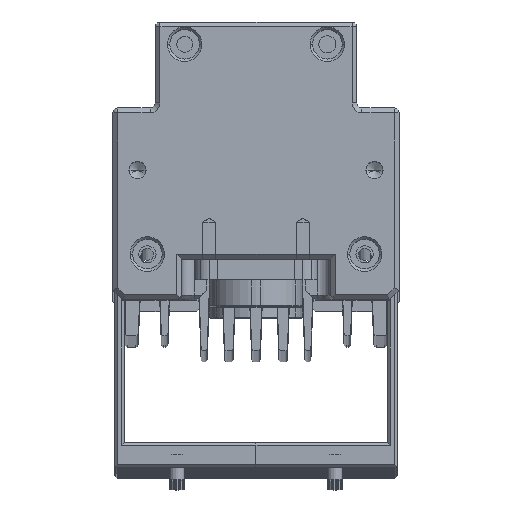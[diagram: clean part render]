
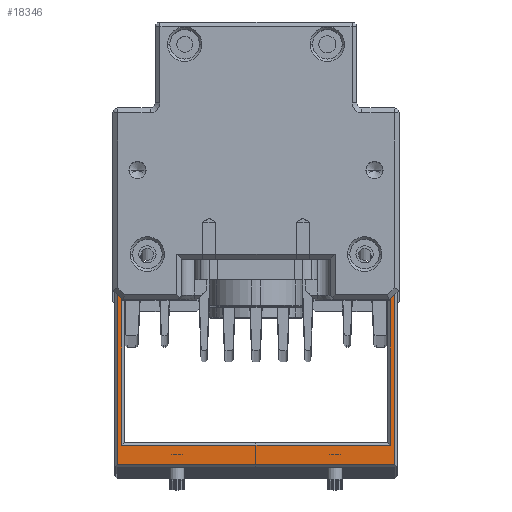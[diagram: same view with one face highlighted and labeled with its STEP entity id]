
A CAD part, top view. The second image highlights one B-rep face of the part: STEP entity #18346.
In plain terms, the highlighted planar face has unit normal (0, 0, 1).
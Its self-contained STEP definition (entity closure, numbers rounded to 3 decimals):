
#17271=DIRECTION('',(-1.,0.,0.));
#17272=VECTOR('',#17271,5.15);
#17273=CARTESIAN_POINT('',(28.15,-20.6,22.));
#17274=LINE('',#17273,#17272);
#17275=DIRECTION('',(0.,1.,0.));
#17276=VECTOR('',#17275,40.5);
#17277=CARTESIAN_POINT('',(28.15,-61.1,22.));
#17278=LINE('',#17277,#17276);
#17279=DIRECTION('',(1.,0.,0.));
#17280=VECTOR('',#17279,56.3);
#17281=CARTESIAN_POINT('',(-28.15,-61.1,22.));
#17282=LINE('',#17281,#17280);
#17283=DIRECTION('',(0.,-1.,0.));
#17284=VECTOR('',#17283,40.5);
#17285=CARTESIAN_POINT('',(-28.15,-20.6,22.));
#17286=LINE('',#17285,#17284);
#17287=DIRECTION('',(-1.,0.,0.));
#17288=VECTOR('',#17287,5.15);
#17289=CARTESIAN_POINT('',(-23.,-20.6,22.));
#17290=LINE('',#17289,#17288);
#17291=DIRECTION('',(0.,1.,0.));
#17292=VECTOR('',#17291,1.);
#17293=CARTESIAN_POINT('',(-23.,-21.6,22.));
#17294=LINE('',#17293,#17292);
#17295=DIRECTION('',(1.,0.,0.));
#17296=VECTOR('',#17295,4.15);
#17297=CARTESIAN_POINT('',(-27.15,-21.6,22.));
#17298=LINE('',#17297,#17296);
#17299=DIRECTION('',(0.,1.,0.));
#17300=VECTOR('',#17299,35.5);
#17301=CARTESIAN_POINT('',(-27.15,-57.1,22.));
#17302=LINE('',#17301,#17300);
#17303=DIRECTION('',(-1.,0.,0.));
#17304=VECTOR('',#17303,54.3);
#17305=CARTESIAN_POINT('',(27.15,-57.1,22.));
#17306=LINE('',#17305,#17304);
#17307=DIRECTION('',(0.,-1.,0.));
#17308=VECTOR('',#17307,35.5);
#17309=CARTESIAN_POINT('',(27.15,-21.6,22.));
#17310=LINE('',#17309,#17308);
#17311=DIRECTION('',(1.,0.,0.));
#17312=VECTOR('',#17311,4.15);
#17313=CARTESIAN_POINT('',(23.,-21.6,22.));
#17314=LINE('',#17313,#17312);
#17315=DIRECTION('',(0.,-1.,0.));
#17316=VECTOR('',#17315,1.);
#17317=CARTESIAN_POINT('',(23.,-20.6,22.));
#17318=LINE('',#17317,#17316);
#17677=CARTESIAN_POINT('',(23.,-20.6,22.));
#17679=VERTEX_POINT('',#17677);
#17681=CARTESIAN_POINT('',(28.15,-20.6,22.));
#17682=VERTEX_POINT('',#17681);
#17683=CARTESIAN_POINT('',(28.15,-61.1,22.));
#17684=VERTEX_POINT('',#17683);
#17717=CARTESIAN_POINT('',(-23.,-21.6,22.));
#17719=VERTEX_POINT('',#17717);
#17723=CARTESIAN_POINT('',(-27.15,-21.6,22.));
#17724=VERTEX_POINT('',#17723);
#17727=CARTESIAN_POINT('',(-27.15,-57.1,22.));
#17728=VERTEX_POINT('',#17727);
#17733=CARTESIAN_POINT('',(27.15,-21.6,22.));
#17734=CARTESIAN_POINT('',(27.15,-57.1,22.));
#17735=VERTEX_POINT('',#17733);
#17736=VERTEX_POINT('',#17734);
#17738=CARTESIAN_POINT('',(23.,-21.6,22.));
#17740=VERTEX_POINT('',#17738);
#17741=CARTESIAN_POINT('',(-28.15,-20.6,22.));
#17742=CARTESIAN_POINT('',(-28.15,-61.1,22.));
#17743=VERTEX_POINT('',#17741);
#17744=VERTEX_POINT('',#17742);
#17746=CARTESIAN_POINT('',(-23.,-20.6,22.));
#17748=VERTEX_POINT('',#17746);
#18318=CARTESIAN_POINT('',(0.,0.,22.));
#18319=DIRECTION('',(0.,0.,1.));
#18320=DIRECTION('',(-1.,0.,0.));
#18321=AXIS2_PLACEMENT_3D('',#18318,#18319,#18320);
#18322=PLANE('',#18321);
#18324=ORIENTED_EDGE('',*,*,#18323,.F.);
#18326=ORIENTED_EDGE('',*,*,#18325,.F.);
#18328=ORIENTED_EDGE('',*,*,#18327,.F.);
#18329=ORIENTED_EDGE('',*,*,#18282,.F.);
#18330=ORIENTED_EDGE('',*,*,#18300,.F.);
#18331=ORIENTED_EDGE('',*,*,#18037,.F.);
#18333=ORIENTED_EDGE('',*,*,#18332,.F.);
#18335=ORIENTED_EDGE('',*,*,#18334,.F.);
#18337=ORIENTED_EDGE('',*,*,#18336,.F.);
#18339=ORIENTED_EDGE('',*,*,#18338,.F.);
#18341=ORIENTED_EDGE('',*,*,#18340,.F.);
#18343=ORIENTED_EDGE('',*,*,#18342,.F.);
#18344=EDGE_LOOP('',(#18324,#18326,#18328,#18329,#18330,#18331,#18333,#18335,
#18337,#18339,#18341,#18343));
#18345=FACE_OUTER_BOUND('',#18344,.F.);
#18037=EDGE_CURVE('',#17719,#17748,#17294,.T.);
#18282=EDGE_CURVE('',#17743,#17744,#17286,.T.);
#18300=EDGE_CURVE('',#17748,#17743,#17290,.T.);
#18323=EDGE_CURVE('',#17682,#17679,#17274,.T.);
#18325=EDGE_CURVE('',#17684,#17682,#17278,.T.);
#18327=EDGE_CURVE('',#17744,#17684,#17282,.T.);
#18332=EDGE_CURVE('',#17724,#17719,#17298,.T.);
#18334=EDGE_CURVE('',#17728,#17724,#17302,.T.);
#18336=EDGE_CURVE('',#17736,#17728,#17306,.T.);
#18338=EDGE_CURVE('',#17735,#17736,#17310,.T.);
#18340=EDGE_CURVE('',#17740,#17735,#17314,.T.);
#18342=EDGE_CURVE('',#17679,#17740,#17318,.T.);
#18346=ADVANCED_FACE('',(#18345),#18322,.T.);
